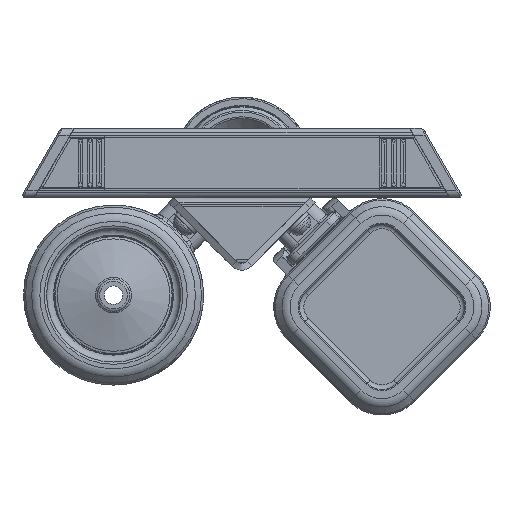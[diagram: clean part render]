
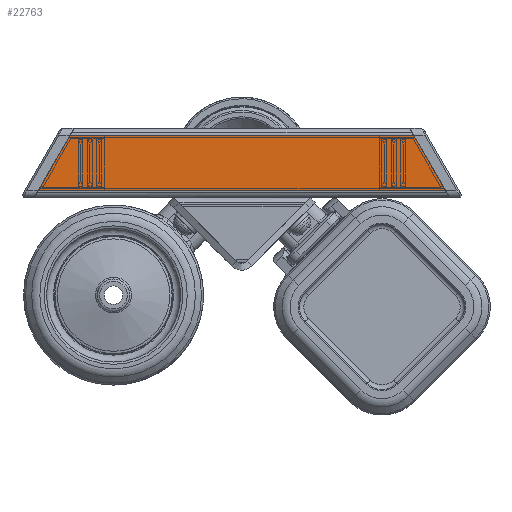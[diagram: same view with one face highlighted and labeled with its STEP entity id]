
A CAD part, front view. The second image highlights one B-rep face of the part: STEP entity #22763.
In plain terms, the highlighted planar face has unit normal (0, -1, 0).
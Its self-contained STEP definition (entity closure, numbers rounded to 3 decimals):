
#595 = VERTEX_POINT ( 'NONE', #32999 ) ;
#1509 = VECTOR ( 'NONE', #10783, 1000. ) ;
#1714 = DIRECTION ( 'NONE',  ( -1., 0., 0. ) ) ;
#2455 = CARTESIAN_POINT ( 'NONE',  ( 32.01, 0., 130.141 ) ) ;
#3883 = CARTESIAN_POINT ( 'NONE',  ( 88.268, 0., 32.698 ) ) ;
#4423 = CARTESIAN_POINT ( 'NONE',  ( -90., 0., 56.698 ) ) ;
#5644 = CARTESIAN_POINT ( 'NONE',  ( -74.412, 0., 56.698 ) ) ;
#5709 = EDGE_CURVE ( 'NONE', #22728, #14480, #21671, .T. ) ;
#6778 = PLANE ( 'NONE',  #20725 ) ;
#7575 = DIRECTION ( 'NONE',  ( 1., 0., 0. ) ) ;
#9538 = VECTOR ( 'NONE', #7575, 1000. ) ;
#10783 = DIRECTION ( 'NONE',  ( -0.5, 0., 0.866 ) ) ;
#13794 = DIRECTION ( 'NONE',  ( -0.5, 0., -0.866 ) ) ;
#14480 = VERTEX_POINT ( 'NONE', #18301 ) ;
#15918 = VERTEX_POINT ( 'NONE', #5644 ) ;
#17498 = ORIENTED_EDGE ( 'NONE', *, *, #19209, .T. ) ;
#17846 = CARTESIAN_POINT ( 'NONE',  ( -90., 0., 59.698 ) ) ;
#18202 = LINE ( 'NONE', #4423, #22514 ) ;
#18301 = CARTESIAN_POINT ( 'NONE',  ( 74.412, 0., 56.698 ) ) ;
#18744 = EDGE_CURVE ( 'NONE', #595, #22728, #26617, .T. ) ;
#19209 = EDGE_CURVE ( 'NONE', #15918, #595, #27010, .T. ) ;
#20725 = AXIS2_PLACEMENT_3D ( 'NONE', #17846, #28885, #22561 ) ;
#21589 = CARTESIAN_POINT ( 'NONE',  ( -77.01, 0., 52.198 ) ) ;
#21671 = LINE ( 'NONE', #2455, #1509 ) ;
#21892 = ORIENTED_EDGE ( 'NONE', *, *, #18744, .T. ) ;
#22097 = EDGE_CURVE ( 'NONE', #14480, #15918, #18202, .T. ) ;
#22514 = VECTOR ( 'NONE', #1714, 1000. ) ;
#22561 = DIRECTION ( 'NONE',  ( 0., 0., -1. ) ) ;
#22728 = VERTEX_POINT ( 'NONE', #3883 ) ;
#22763 = ADVANCED_FACE ( 'NONE', ( #31590 ), #6778, .T. ) ;
#23888 = CARTESIAN_POINT ( 'NONE',  ( -90., 0., 32.698 ) ) ;
#26617 = LINE ( 'NONE', #23888, #9538 ) ;
#26675 = ORIENTED_EDGE ( 'NONE', *, *, #5709, .T. ) ;
#27010 = LINE ( 'NONE', #21589, #29226 ) ;
#27019 = ORIENTED_EDGE ( 'NONE', *, *, #22097, .T. ) ;
#28885 = DIRECTION ( 'NONE',  ( 0., -1., 0. ) ) ;
#29226 = VECTOR ( 'NONE', #13794, 1000. ) ;
#31590 = FACE_OUTER_BOUND ( 'NONE', #33863, .T. ) ;
#32999 = CARTESIAN_POINT ( 'NONE',  ( -88.268, 0., 32.698 ) ) ;
#33863 = EDGE_LOOP ( 'NONE', ( #26675, #27019, #17498, #21892 ) ) ;
